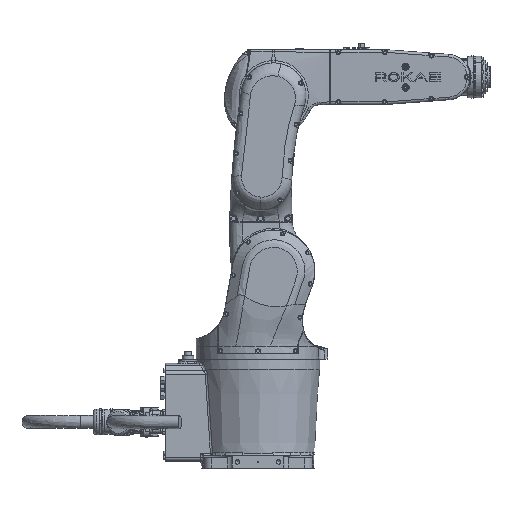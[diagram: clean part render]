
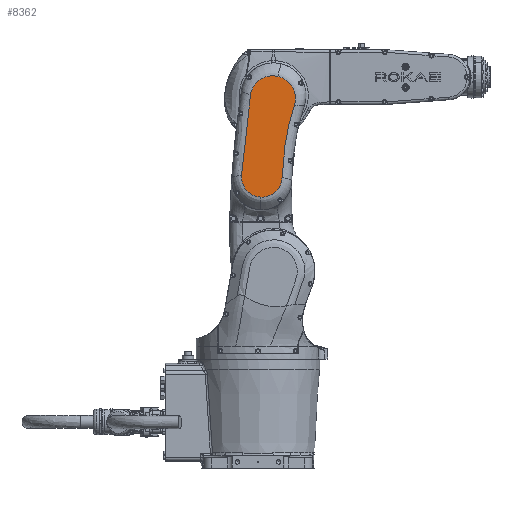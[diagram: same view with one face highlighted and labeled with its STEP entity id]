
A CAD part, front view. The second image highlights one B-rep face of the part: STEP entity #8362.
In plain terms, the highlighted planar face has unit normal (0, -1, 0).
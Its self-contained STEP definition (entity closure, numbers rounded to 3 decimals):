
#5717=B_SPLINE_CURVE_WITH_KNOTS('',3,(#91093,#91094,#91095,#91096,#91097,
#91098,#91099,#91100,#91101,#91102),.UNSPECIFIED.,.F.,.F.,(4,2,2,2,4),(0.,
0.25,0.5,0.75,1.),.UNSPECIFIED.);
#5732=B_SPLINE_CURVE_WITH_KNOTS('',3,(#94939,#94940,#94941,#94942),
 .UNSPECIFIED.,.F.,.F.,(4,4),(0.,1.),.UNSPECIFIED.);
#5741=B_SPLINE_CURVE_WITH_KNOTS('',3,(#95089,#95090,#95091,#95092,#95093,
#95094,#95095,#95096,#95097,#95098),.UNSPECIFIED.,.F.,.F.,(4,2,2,2,4),(0.,
0.25,0.5,0.75,1.),.UNSPECIFIED.);
#5756=B_SPLINE_CURVE_WITH_KNOTS('',3,(#95654,#95655,#95656,#95657),
 .UNSPECIFIED.,.F.,.F.,(4,4),(0.,1.),.UNSPECIFIED.);
#5764=B_SPLINE_CURVE_WITH_KNOTS('',3,(#95822,#95823,#95824,#95825,#95826,
#95827,#95828,#95829,#95830,#95831),.UNSPECIFIED.,.F.,.F.,(4,2,2,2,4),(0.,
0.25,0.5,0.75,1.),.UNSPECIFIED.);
#5769=B_SPLINE_CURVE_WITH_KNOTS('',3,(#96311,#96312,#96313,#96314,#96315,
#96316,#96317,#96318,#96319,#96320),.UNSPECIFIED.,.F.,.F.,(4,2,2,2,4),(0.,
0.25,0.5,0.75,1.),.UNSPECIFIED.);
#8362=ADVANCED_FACE('',(#12730),#11028,.T.);
#11028=PLANE('',#56595);
#12730=FACE_OUTER_BOUND('',#16126,.T.);
#16126=EDGE_LOOP('',(#32597,#32598,#32599,#32600,#32601,#32602));
#32597=ORIENTED_EDGE('',*,*,#49764,.T.);
#32598=ORIENTED_EDGE('',*,*,#49749,.T.);
#32599=ORIENTED_EDGE('',*,*,#49805,.T.);
#32600=ORIENTED_EDGE('',*,*,#49794,.T.);
#32601=ORIENTED_EDGE('',*,*,#49812,.T.);
#32602=ORIENTED_EDGE('',*,*,#49775,.T.);
#43893=VERTEX_POINT('',#91092);
#43894=VERTEX_POINT('',#91103);
#43908=VERTEX_POINT('',#94943);
#43917=VERTEX_POINT('',#95078);
#43936=VERTEX_POINT('',#95658);
#43937=VERTEX_POINT('',#95659);
#49749=EDGE_CURVE('',#43894,#43893,#5717,.T.);
#49764=EDGE_CURVE('',#43908,#43894,#5732,.T.);
#49775=EDGE_CURVE('',#43917,#43908,#5741,.T.);
#49794=EDGE_CURVE('',#43936,#43937,#5756,.T.);
#49805=EDGE_CURVE('',#43893,#43936,#5764,.T.);
#49812=EDGE_CURVE('',#43937,#43917,#5769,.T.);
#56595=AXIS2_PLACEMENT_3D('',#96758,#65337,#65338);
#65337=DIRECTION('',(0.,-1.,0.));
#65338=DIRECTION('',(0.,0.,-1.));
#91092=CARTESIAN_POINT('',(-24.611,-115.,143.411));
#91093=CARTESIAN_POINT('',(-61.751,-115.,185.411));
#91094=CARTESIAN_POINT('',(-62.124,-115.,180.215));
#91095=CARTESIAN_POINT('',(-61.452,-115.,174.959));
#91096=CARTESIAN_POINT('',(-58.115,-115.,165.093));
#91097=CARTESIAN_POINT('',(-55.458,-115.,160.506));
#91098=CARTESIAN_POINT('',(-48.559,-115.,152.705));
#91099=CARTESIAN_POINT('',(-44.332,-115.,149.506));
#91100=CARTESIAN_POINT('',(-34.948,-115.,144.987));
#91101=CARTESIAN_POINT('',(-29.812,-115.,143.676));
#91102=CARTESIAN_POINT('',(-24.611,-115.,143.411));
#91103=CARTESIAN_POINT('',(-61.751,-115.,185.411));
#94939=CARTESIAN_POINT('',(-44.433,-115.,340.528));
#94940=CARTESIAN_POINT('',(-52.244,-115.,289.05));
#94941=CARTESIAN_POINT('',(-58.016,-115.,237.344));
#94942=CARTESIAN_POINT('',(-61.751,-115.,185.411));
#94943=CARTESIAN_POINT('',(-44.433,-115.,340.528));
#95078=CARTESIAN_POINT('',(8.392,-115.,376.398));
#95089=CARTESIAN_POINT('',(8.392,-115.,376.398));
#95090=CARTESIAN_POINT('',(2.566,-115.,377.745));
#95091=CARTESIAN_POINT('',(-3.523,-115.,377.874));
#95092=CARTESIAN_POINT('',(-15.276,-115.,375.679));
#95093=CARTESIAN_POINT('',(-20.91,-115.,373.359));
#95094=CARTESIAN_POINT('',(-30.801,-115.,366.643));
#95095=CARTESIAN_POINT('',(-35.035,-115.,362.262));
#95096=CARTESIAN_POINT('',(-41.41,-115.,352.148));
#95097=CARTESIAN_POINT('',(-43.536,-115.,346.439));
#95098=CARTESIAN_POINT('',(-44.433,-115.,340.528));
#95654=CARTESIAN_POINT('',(16.603,-115.,181.42));
#95655=CARTESIAN_POINT('',(18.023,-115.,228.742));
#95656=CARTESIAN_POINT('',(25.952,-115.,275.808));
#95657=CARTESIAN_POINT('',(40.114,-115.,320.982));
#95658=CARTESIAN_POINT('',(16.603,-115.,181.42));
#95659=CARTESIAN_POINT('',(40.114,-115.,320.982));
#95822=CARTESIAN_POINT('',(-24.611,-115.,143.411));
#95823=CARTESIAN_POINT('',(-19.409,-115.,143.146));
#95824=CARTESIAN_POINT('',(-14.168,-115.,143.928));
#95825=CARTESIAN_POINT('',(-4.374,-115.,147.471));
#95826=CARTESIAN_POINT('',(0.157,-115.,150.223));
#95827=CARTESIAN_POINT('',(7.812,-115.,157.284));
#95828=CARTESIAN_POINT('',(10.922,-115.,161.577));
#95829=CARTESIAN_POINT('',(15.244,-115.,171.053));
#95830=CARTESIAN_POINT('',(16.447,-115.,176.215));
#95831=CARTESIAN_POINT('',(16.603,-115.,181.42));
#96311=CARTESIAN_POINT('',(40.114,-115.,320.982));
#96312=CARTESIAN_POINT('',(41.903,-115.,326.688));
#96313=CARTESIAN_POINT('',(42.498,-115.,332.75));
#96314=CARTESIAN_POINT('',(41.208,-115.,344.636));
#96315=CARTESIAN_POINT('',(39.327,-115.,350.431));
#96316=CARTESIAN_POINT('',(33.387,-115.,360.807));
#96317=CARTESIAN_POINT('',(29.343,-115.,365.364));
#96318=CARTESIAN_POINT('',(19.747,-115.,372.495));
#96319=CARTESIAN_POINT('',(14.217,-115.,375.052));
#96320=CARTESIAN_POINT('',(8.392,-115.,376.398));
#96758=CARTESIAN_POINT('',(-1.409,-115.,334.));
